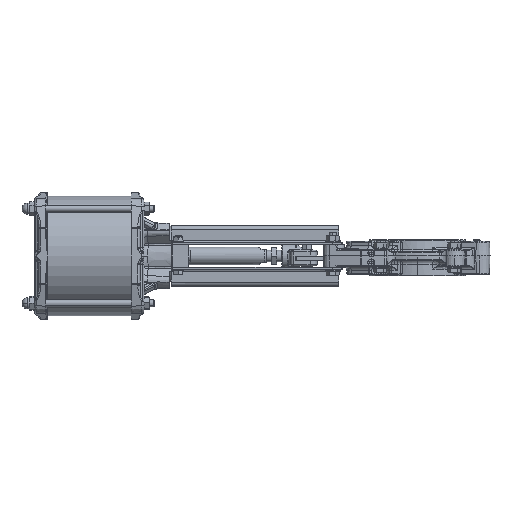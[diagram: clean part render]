
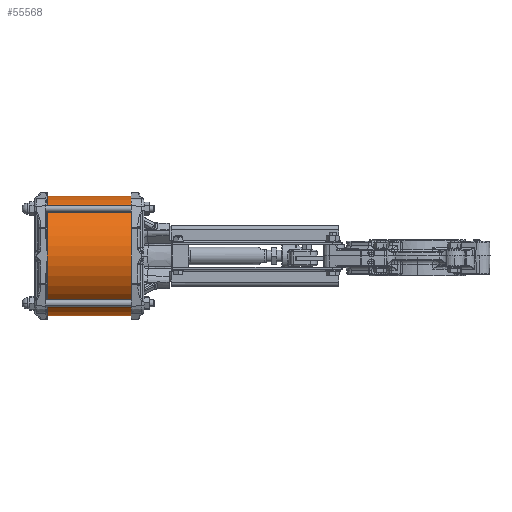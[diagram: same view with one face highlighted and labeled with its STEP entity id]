
A CAD part, left-side view. The second image highlights one B-rep face of the part: STEP entity #55568.
In plain terms, the highlighted cylindrical face has radius 85 mm (diameter 170 mm), a partial arc.
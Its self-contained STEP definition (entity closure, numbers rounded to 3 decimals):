
#1491 = ORIENTED_EDGE ( 'NONE', *, *, #55274, .T. ) ;
#4242 = CARTESIAN_POINT ( 'NONE',  ( 0., 404., -0.25 ) ) ;
#5991 = CARTESIAN_POINT ( 'NONE',  ( 0., 404., 84.75 ) ) ;
#18541 = DIRECTION ( 'NONE',  ( 1., 0., 0. ) ) ;
#21788 = VERTEX_POINT ( 'NONE', #176502 ) ;
#23370 = FACE_OUTER_BOUND ( 'NONE', #108070, .T. ) ;
#27907 = DIRECTION ( 'NONE',  ( 0., 0., 1. ) ) ;
#28283 = DIRECTION ( 'NONE',  ( 0., -1., 0. ) ) ;
#33613 = ORIENTED_EDGE ( 'NONE', *, *, #60401, .F. ) ;
#35045 = DIRECTION ( 'NONE',  ( 0., -1., 0. ) ) ;
#39114 = VERTEX_POINT ( 'NONE', #5991 ) ;
#49067 = ORIENTED_EDGE ( 'NONE', *, *, #151107, .T. ) ;
#49248 = CARTESIAN_POINT ( 'NONE',  ( 0., 399.641, 84.75 ) ) ;
#55274 = EDGE_CURVE ( 'NONE', #118389, #21788, #165398, .T. ) ;
#55568 = ADVANCED_FACE ( 'NONE', ( #23370 ), #118626, .T. ) ;
#60401 = EDGE_CURVE ( 'NONE', #117218, #39114, #101350, .T. ) ;
#79642 = AXIS2_PLACEMENT_3D ( 'NONE', #4242, #103254, #18541 ) ;
#85901 = CARTESIAN_POINT ( 'NONE',  ( 0., 528., 84.75 ) ) ;
#90935 = CARTESIAN_POINT ( 'NONE',  ( 0., 528., -85.25 ) ) ;
#94383 = VECTOR ( 'NONE', #95011, 1000. ) ;
#95011 = DIRECTION ( 'NONE',  ( 0., -1., 0. ) ) ;
#96907 = VECTOR ( 'NONE', #35045, 1000. ) ;
#101350 = LINE ( 'NONE', #49248, #96907 ) ;
#103254 = DIRECTION ( 'NONE',  ( 0., 1., 0. ) ) ;
#108070 = EDGE_LOOP ( 'NONE', ( #125494, #1491, #49067, #33613 ) ) ;
#108685 = CARTESIAN_POINT ( 'NONE',  ( 0., 399.641, -85.25 ) ) ;
#112713 = CARTESIAN_POINT ( 'NONE',  ( 0., 399.641, -0.25 ) ) ;
#113065 = CARTESIAN_POINT ( 'NONE',  ( 0., 528., -0.25 ) ) ;
#117218 = VERTEX_POINT ( 'NONE', #85901 ) ;
#118389 = VERTEX_POINT ( 'NONE', #90935 ) ;
#118626 = CYLINDRICAL_SURFACE ( 'NONE', #120781, 85. ) ;
#120781 = AXIS2_PLACEMENT_3D ( 'NONE', #112713, #154867, #27907 ) ;
#125494 = ORIENTED_EDGE ( 'NONE', *, *, #174442, .T. ) ;
#127317 = DIRECTION ( 'NONE',  ( 1., 0., 0. ) ) ;
#147701 = AXIS2_PLACEMENT_3D ( 'NONE', #113065, #28283, #127317 ) ;
#151107 = EDGE_CURVE ( 'NONE', #21788, #39114, #172476, .T. ) ;
#154867 = DIRECTION ( 'NONE',  ( 0., -1., 0. ) ) ;
#165398 = LINE ( 'NONE', #108685, #94383 ) ;
#172476 = CIRCLE ( 'NONE', #79642, 85. ) ;
#174442 = EDGE_CURVE ( 'NONE', #117218, #118389, #178547, .T. ) ;
#176502 = CARTESIAN_POINT ( 'NONE',  ( 0., 404., -85.25 ) ) ;
#178547 = CIRCLE ( 'NONE', #147701, 85. ) ;
